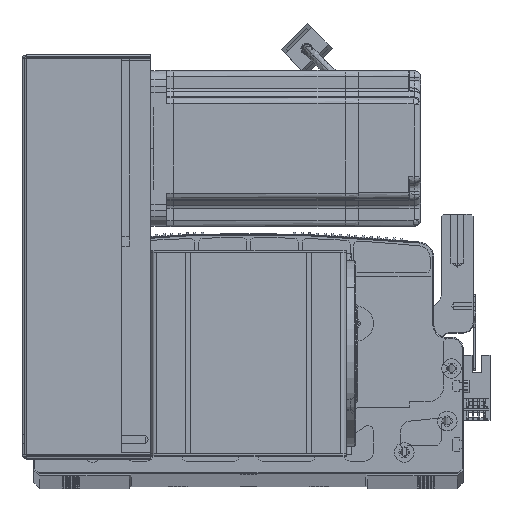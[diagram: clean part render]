
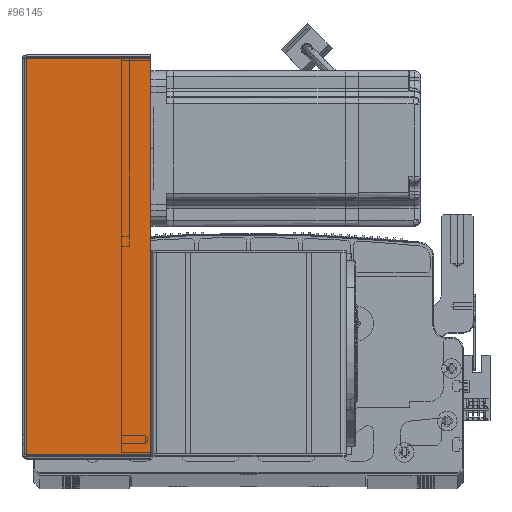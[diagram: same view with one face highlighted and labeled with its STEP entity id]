
A CAD part, top view. The second image highlights one B-rep face of the part: STEP entity #96145.
In plain terms, the highlighted planar face has unit normal (0, 0, 1) as drawn and (0, 1, 0) by its records, which use the part's own axes.
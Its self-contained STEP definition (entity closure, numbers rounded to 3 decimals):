
#3692 = VECTOR ( 'NONE', #58069, 1000. ) ;
#4501 = EDGE_LOOP ( 'NONE', ( #56548, #97675, #50141, #97988 ) ) ;
#5928 = LINE ( 'NONE', #87064, #74819 ) ;
#6731 = VERTEX_POINT ( 'NONE', #100314 ) ;
#6789 = DIRECTION ( 'NONE',  ( 1., 0., 0. ) ) ;
#14381 = CARTESIAN_POINT ( 'NONE',  ( 0.737, 107.5, -203.293 ) ) ;
#15668 = DIRECTION ( 'NONE',  ( 1., 0., 0. ) ) ;
#16727 = CARTESIAN_POINT ( 'NONE',  ( 64.5, 107.5, -204. ) ) ;
#16971 = FACE_OUTER_BOUND ( 'NONE', #4501, .T. ) ;
#19930 = DIRECTION ( 'NONE',  ( 0., -1., 0. ) ) ;
#28436 = VECTOR ( 'NONE', #55804, 1000. ) ;
#43161 = VERTEX_POINT ( 'NONE', #90982 ) ;
#45148 = DIRECTION ( 'NONE',  ( 1., 0., 0. ) ) ;
#45506 = PLANE ( 'NONE',  #61519 ) ;
#49113 = EDGE_CURVE ( 'NONE', #85058, #73833, #5928, .T. ) ;
#50141 = ORIENTED_EDGE ( 'NONE', *, *, #57376, .T. ) ;
#51146 = CARTESIAN_POINT ( 'NONE',  ( 64.5, 107.5, -203.293 ) ) ;
#52157 = EDGE_CURVE ( 'NONE', #43161, #85058, #64677, .T. ) ;
#55804 = DIRECTION ( 'NONE',  ( 0., 0., -1. ) ) ;
#56548 = ORIENTED_EDGE ( 'NONE', *, *, #52157, .F. ) ;
#57376 = EDGE_CURVE ( 'NONE', #6731, #73833, #82667, .T. ) ;
#58069 = DIRECTION ( 'NONE',  ( 0., 0., -1. ) ) ;
#61519 = AXIS2_PLACEMENT_3D ( 'NONE', #76231, #19930, #45148 ) ;
#64677 = LINE ( 'NONE', #96361, #28436 ) ;
#73833 = VERTEX_POINT ( 'NONE', #51146 ) ;
#74819 = VECTOR ( 'NONE', #15668, 1000. ) ;
#76231 = CARTESIAN_POINT ( 'NONE',  ( 0., 107.5, 0. ) ) ;
#82667 = LINE ( 'NONE', #16727, #3692 ) ;
#83257 = EDGE_CURVE ( 'NONE', #43161, #6731, #90041, .T. ) ;
#85058 = VERTEX_POINT ( 'NONE', #14381 ) ;
#85183 = CARTESIAN_POINT ( 'NONE',  ( 0., 107.5, -0.707 ) ) ;
#87064 = CARTESIAN_POINT ( 'NONE',  ( 0., 107.5, -203.293 ) ) ;
#90041 = LINE ( 'NONE', #85183, #101325 ) ;
#90982 = CARTESIAN_POINT ( 'NONE',  ( 0.737, 107.5, -0.707 ) ) ;
#96145 = ADVANCED_FACE ( 'NONE', ( #16971 ), #45506, .F. ) ;
#96361 = CARTESIAN_POINT ( 'NONE',  ( 0.737, 107.5, 0. ) ) ;
#97675 = ORIENTED_EDGE ( 'NONE', *, *, #83257, .T. ) ;
#97988 = ORIENTED_EDGE ( 'NONE', *, *, #49113, .F. ) ;
#100314 = CARTESIAN_POINT ( 'NONE',  ( 64.5, 107.5, -0.707 ) ) ;
#101325 = VECTOR ( 'NONE', #6789, 1000. ) ;
